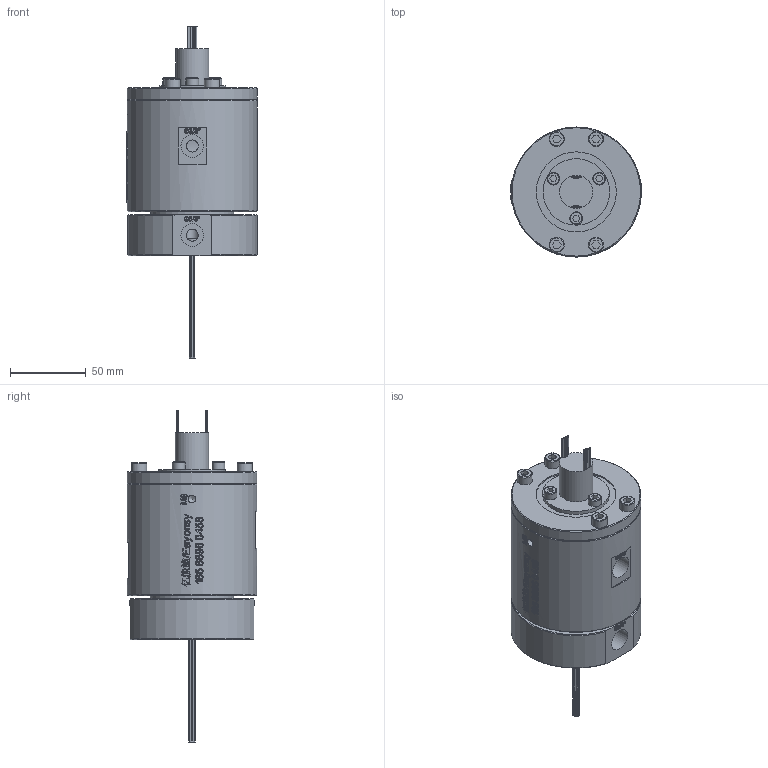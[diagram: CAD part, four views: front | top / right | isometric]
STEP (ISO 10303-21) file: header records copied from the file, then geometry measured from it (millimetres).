
FILE_DESCRIPTION(/* description */ (''),/* implementation_level */ '2;1');
FILE_NAME(/* name */ 'HQ0203-18M-3D模型.stp',/* time_stamp */ '2025-09-02T11:53:36+08:00',/* author */ (''),/* organization */ (''),/* preprocessor_version */ 'ST-DEVELOPER v16.7',/* originating_system */ 'SIEMENS PLM Software NX 12.0',/* authorisation */ '');
FILE_SCHEMA (('AUTOMOTIVE_DESIGN { 1 0 10303 214 3 1 1 1 }'));
Products named in the file (1): Admi1B40D54Exq76
Bounding box: 86.58 x 86 x 219.7 mm (x, y, z)
Volume: 635407.5 mm3; surface area: 63034.9 mm2
Topology: 1 solids, 4 shells, 1536 faces, 4136 edges, 2761 vertices
Faces by surface type: extrusion 869, plane 483, cylinder 101, bspline 61, cone 15, torus 7
Full cylindrical faces by diameter (mm): 0.8 x36, 5 x9, 5.5 x3, 8 x6, 8.5 x3, 9.4 x2, 9.5 x2, 10 x4, 15 x4, 17 x1, 22 x1, 44 x1, 53 x1, 55 x1, 65 x1, 86 x2
Entity records: 58905 total; most frequent: CARTESIAN_POINT 27033, ORIENTED_EDGE 7976, EDGE_CURVE 3988, B_SPLINE_CURVE_WITH_KNOTS 3984, DIRECTION 3279, VERTEX_POINT 2717, EDGE_LOOP 1793, ADVANCED_FACE 1534
